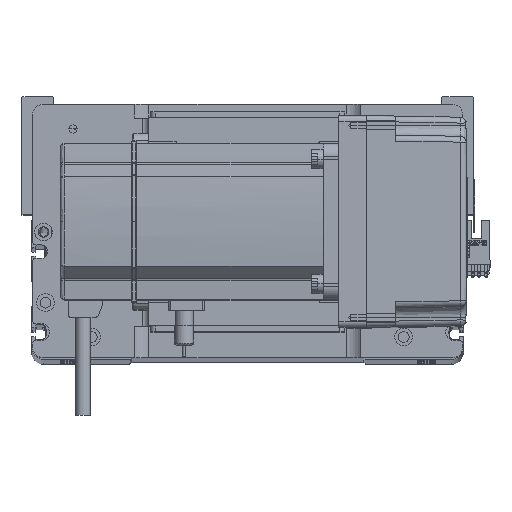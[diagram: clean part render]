
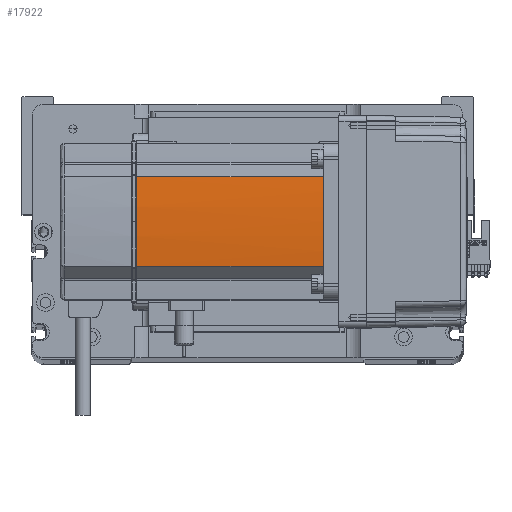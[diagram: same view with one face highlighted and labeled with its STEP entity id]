
A CAD part, top view. The second image highlights one B-rep face of the part: STEP entity #17922.
In plain terms, the highlighted cylindrical face has radius 270 mm (diameter 540 mm), a partial arc.
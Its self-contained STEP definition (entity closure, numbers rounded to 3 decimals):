
#639 = LINE ( 'NONE', #48619, #40632 ) ;
#1338 = ORIENTED_EDGE ( 'NONE', *, *, #11796, .T. ) ;
#1543 = CARTESIAN_POINT ( 'NONE',  ( -39.042, 22.724, 39. ) ) ;
#1882 = CARTESIAN_POINT ( 'NONE',  ( -39.042, 22.724, 134. ) ) ;
#3999 = AXIS2_PLACEMENT_3D ( 'NONE', #37808, #8553, #45211 ) ;
#5178 = ORIENTED_EDGE ( 'NONE', *, *, #46337, .F. ) ;
#5674 = CARTESIAN_POINT ( 'NONE',  ( -39.042, 22.724, 0. ) ) ;
#7739 = ORIENTED_EDGE ( 'NONE', *, *, #19135, .T. ) ;
#8503 = EDGE_CURVE ( 'NONE', #47446, #46300, #639, .T. ) ;
#8553 = DIRECTION ( 'NONE',  ( 0., 0., -1. ) ) ;
#10506 = CARTESIAN_POINT ( 'NONE',  ( 230., 0., 39. ) ) ;
#10857 = DIRECTION ( 'NONE',  ( 0., 0., -1. ) ) ;
#11453 = DIRECTION ( 'NONE',  ( 0., 0., 1. ) ) ;
#11796 = EDGE_CURVE ( 'NONE', #37001, #18495, #12242, .T. ) ;
#12242 = CIRCLE ( 'NONE', #23164, 270. ) ;
#14132 = CARTESIAN_POINT ( 'NONE',  ( -40., 0., 134. ) ) ;
#14420 = CARTESIAN_POINT ( 'NONE',  ( 230., 0., 0. ) ) ;
#14613 = DIRECTION ( 'NONE',  ( 1., 0., 0. ) ) ;
#17349 = CARTESIAN_POINT ( 'NONE',  ( -39.042, -22.724, 39. ) ) ;
#17922 = ADVANCED_FACE ( 'NONE', ( #29583 ), #26950, .T. ) ;
#18495 = VERTEX_POINT ( 'NONE', #1882 ) ;
#19135 = EDGE_CURVE ( 'NONE', #18495, #26876, #43673, .T. ) ;
#22493 = CIRCLE ( 'NONE', #3999, 270. ) ;
#23164 = AXIS2_PLACEMENT_3D ( 'NONE', #35565, #10857, #43894 ) ;
#23281 = ORIENTED_EDGE ( 'NONE', *, *, #8503, .T. ) ;
#26876 = VERTEX_POINT ( 'NONE', #1543 ) ;
#26950 = CYLINDRICAL_SURFACE ( 'NONE', #44561, 270. ) ;
#27405 = EDGE_CURVE ( 'NONE', #46300, #37001, #22493, .T. ) ;
#29583 = FACE_OUTER_BOUND ( 'NONE', #53543, .T. ) ;
#31988 = AXIS2_PLACEMENT_3D ( 'NONE', #10506, #52389, #43751 ) ;
#35565 = CARTESIAN_POINT ( 'NONE',  ( 230., 0., 134. ) ) ;
#37001 = VERTEX_POINT ( 'NONE', #14132 ) ;
#37808 = CARTESIAN_POINT ( 'NONE',  ( 230., 0., 134. ) ) ;
#38463 = CIRCLE ( 'NONE', #31988, 270. ) ;
#38990 = DIRECTION ( 'NONE',  ( 0., 0., 1. ) ) ;
#40451 = VECTOR ( 'NONE', #46988, 1000. ) ;
#40632 = VECTOR ( 'NONE', #11453, 1000. ) ;
#43383 = CARTESIAN_POINT ( 'NONE',  ( -39.042, -22.724, 134. ) ) ;
#43673 = LINE ( 'NONE', #5674, #40451 ) ;
#43751 = DIRECTION ( 'NONE',  ( 1., 0., 0. ) ) ;
#43894 = DIRECTION ( 'NONE',  ( 1., 0., 0. ) ) ;
#44561 = AXIS2_PLACEMENT_3D ( 'NONE', #14420, #38990, #14613 ) ;
#45211 = DIRECTION ( 'NONE',  ( 1., 0., 0. ) ) ;
#46300 = VERTEX_POINT ( 'NONE', #43383 ) ;
#46337 = EDGE_CURVE ( 'NONE', #47446, #26876, #38463, .T. ) ;
#46988 = DIRECTION ( 'NONE',  ( 0., 0., -1. ) ) ;
#47446 = VERTEX_POINT ( 'NONE', #17349 ) ;
#48601 = ORIENTED_EDGE ( 'NONE', *, *, #27405, .T. ) ;
#48619 = CARTESIAN_POINT ( 'NONE',  ( -39.042, -22.724, 0. ) ) ;
#52389 = DIRECTION ( 'NONE',  ( 0., 0., -1. ) ) ;
#53543 = EDGE_LOOP ( 'NONE', ( #48601, #1338, #7739, #5178, #23281 ) ) ;
